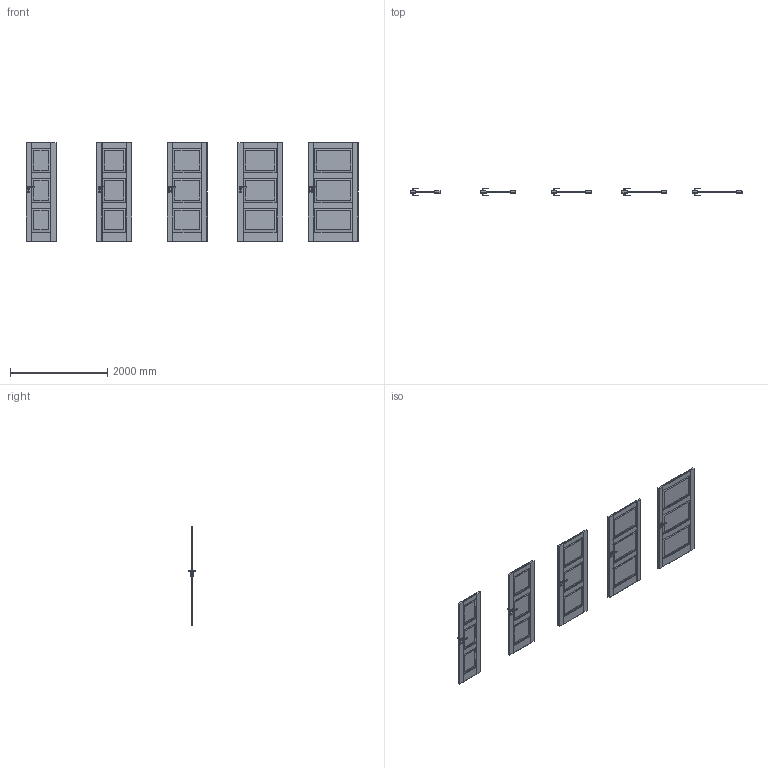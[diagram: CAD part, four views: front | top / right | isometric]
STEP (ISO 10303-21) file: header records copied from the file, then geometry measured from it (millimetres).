
FILE_DESCRIPTION(/* description */ (''),/* implementation_level */ '2;1');
FILE_NAME(/* name */ '049803_A_2-Skrzydło Balance model D_ polska norma _PN__ bezprzylgowe..stp',/* time_stamp */ '2024-08-20T09:16:43+02:00',/* author */ (''),/* organization */ (''),/* preprocessor_version */ 'ST-DEVELOPER v16',/* originating_system */ 'SIEMENS PLM Software NX 11.0',/* authorisation */ '');
FILE_SCHEMA (('AUTOMOTIVE_DESIGN { 1 0 10303 214 3 1 1 1 }'));
Products named in the file (1): bkni0DA8DE73i7wr
Bounding box: 6818 x 153.13 x 2017.01 mm (x, y, z)
Volume: 209943709.8 mm3; surface area: 18787965.4 mm2
Topology: 25 solids, 30 shells, 1970 faces, 4945 edges, 2970 vertices
Faces by surface type: plane 1060, cylinder 610, bspline 160, sphere 140
Entity records: 62976 total; most frequent: CARTESIAN_POINT 16829, ORIENTED_EDGE 9610, DIRECTION 9467, EDGE_CURVE 4805, AXIS2_PLACEMENT_3D 3171, LINE 3125, VECTOR 3125, VERTEX_POINT 2970
